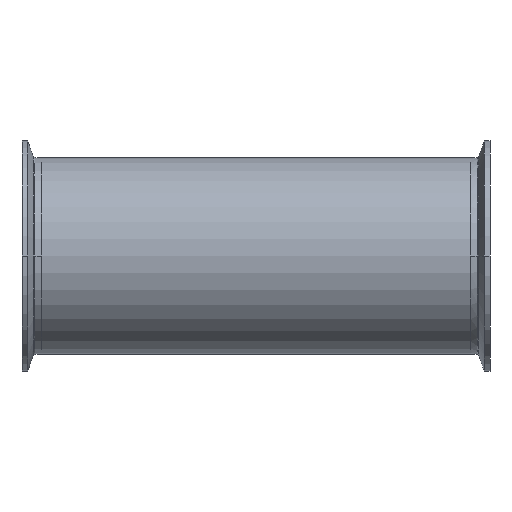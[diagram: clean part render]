
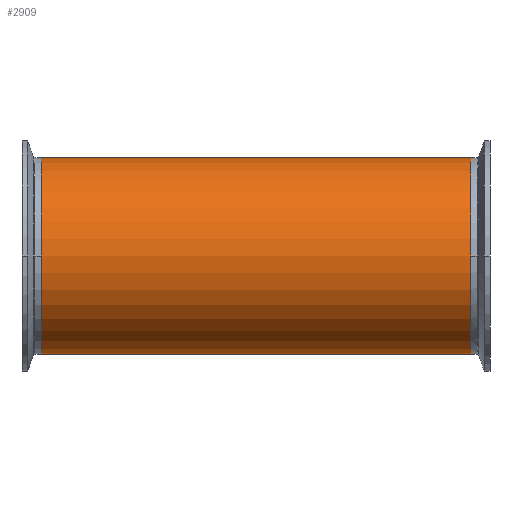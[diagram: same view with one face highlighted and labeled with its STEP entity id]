
A CAD part, front view. The second image highlights one B-rep face of the part: STEP entity #2909.
In plain terms, the highlighted cylindrical face has radius 50.8 mm (diameter 101.6 mm), a partial arc.
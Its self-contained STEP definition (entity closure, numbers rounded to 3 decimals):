
#86 = DIRECTION ( 'NONE',  ( -1., 0., 0. ) ) ;
#140 = EDGE_CURVE ( 'NONE', #876, #1723, #711, .T. ) ;
#280 = ORIENTED_EDGE ( 'NONE', *, *, #140, .F. ) ;
#325 = EDGE_CURVE ( 'NONE', #2991, #3856, #2976, .T. ) ;
#404 = EDGE_CURVE ( 'NONE', #3856, #1723, #3621, .T. ) ;
#425 = CARTESIAN_POINT ( 'NONE',  ( 254.384, 0., -50.8 ) ) ;
#711 = LINE ( 'NONE', #425, #3097 ) ;
#876 = VERTEX_POINT ( 'NONE', #2001 ) ;
#1251 = VECTOR ( 'NONE', #4023, 1000. ) ;
#1338 = DIRECTION ( 'NONE',  ( -1., 0., 0. ) ) ;
#1535 = CARTESIAN_POINT ( 'NONE',  ( 110.7, 0., 0. ) ) ;
#1646 = CARTESIAN_POINT ( 'NONE',  ( 254.384, 0., 0. ) ) ;
#1723 = VERTEX_POINT ( 'NONE', #3180 ) ;
#1847 = DIRECTION ( 'NONE',  ( 0., 0., 1. ) ) ;
#2001 = CARTESIAN_POINT ( 'NONE',  ( 110.7, 0., -50.8 ) ) ;
#2025 = EDGE_CURVE ( 'NONE', #876, #2991, #4125, .T. ) ;
#2119 = DIRECTION ( 'NONE',  ( 0., 0., 1. ) ) ;
#2255 = ORIENTED_EDGE ( 'NONE', *, *, #2025, .T. ) ;
#2379 = ORIENTED_EDGE ( 'NONE', *, *, #325, .T. ) ;
#2468 = DIRECTION ( 'NONE',  ( 1., 0., 0. ) ) ;
#2559 = CARTESIAN_POINT ( 'NONE',  ( -110.7, 0., 50.8 ) ) ;
#2823 = AXIS2_PLACEMENT_3D ( 'NONE', #4025, #2468, #2119 ) ;
#2909 = ADVANCED_FACE ( 'NONE', ( #3095 ), #3641, .T. ) ;
#2939 = DIRECTION ( 'NONE',  ( 0., 0., 1. ) ) ;
#2976 = LINE ( 'NONE', #4040, #1251 ) ;
#2991 = VERTEX_POINT ( 'NONE', #3979 ) ;
#3095 = FACE_OUTER_BOUND ( 'NONE', #3381, .T. ) ;
#3097 = VECTOR ( 'NONE', #86, 1000. ) ;
#3180 = CARTESIAN_POINT ( 'NONE',  ( -110.7, 0., -50.8 ) ) ;
#3381 = EDGE_LOOP ( 'NONE', ( #280, #2255, #2379, #4022 ) ) ;
#3425 = AXIS2_PLACEMENT_3D ( 'NONE', #1535, #3788, #1847 ) ;
#3621 = CIRCLE ( 'NONE', #2823, 50.8 ) ;
#3641 = CYLINDRICAL_SURFACE ( 'NONE', #3684, 50.8 ) ;
#3684 = AXIS2_PLACEMENT_3D ( 'NONE', #1646, #1338, #2939 ) ;
#3788 = DIRECTION ( 'NONE',  ( -1., 0., 0. ) ) ;
#3856 = VERTEX_POINT ( 'NONE', #2559 ) ;
#3979 = CARTESIAN_POINT ( 'NONE',  ( 110.7, 0., 50.8 ) ) ;
#4022 = ORIENTED_EDGE ( 'NONE', *, *, #404, .T. ) ;
#4023 = DIRECTION ( 'NONE',  ( -1., 0., 0. ) ) ;
#4025 = CARTESIAN_POINT ( 'NONE',  ( -110.7, 0., 0. ) ) ;
#4040 = CARTESIAN_POINT ( 'NONE',  ( 254.384, 0., 50.8 ) ) ;
#4125 = CIRCLE ( 'NONE', #3425, 50.8 ) ;
